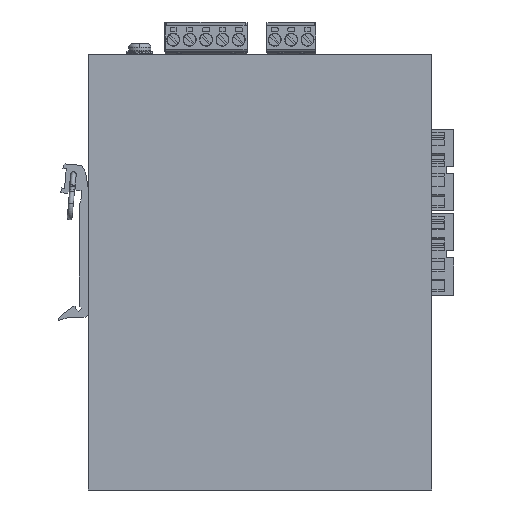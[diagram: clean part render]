
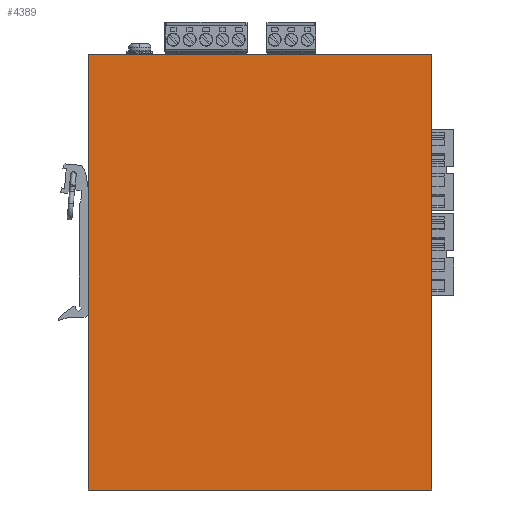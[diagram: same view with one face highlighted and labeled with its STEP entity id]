
A CAD part, left-side view. The second image highlights one B-rep face of the part: STEP entity #4389.
In plain terms, the highlighted planar face has unit normal (-1, 0, 0).
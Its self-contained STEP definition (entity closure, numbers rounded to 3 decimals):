
#432=CARTESIAN_POINT('',(-0.,0.,135.));
#433=VERTEX_POINT('',#432);
#450=CARTESIAN_POINT('',(-0.,106.5,135.));
#451=VERTEX_POINT('',#450);
#458=CARTESIAN_POINT('',(-0.,106.5,135.));
#459=DIRECTION('',(0.,-1.,0.));
#460=VECTOR('',#459,106.5);
#461=LINE('',#458,#460);
#462=EDGE_CURVE('',#451,#433,#461,.T.);
#2905=CARTESIAN_POINT('',(-0.,106.5,0.));
#2906=VERTEX_POINT('',#2905);
#2913=CARTESIAN_POINT('',(-0.,106.5,0.));
#2914=DIRECTION('',(-0.,-0.,1.));
#2915=VECTOR('',#2914,135.);
#2916=LINE('',#2913,#2915);
#2917=EDGE_CURVE('',#2906,#451,#2916,.T.);
#4313=CARTESIAN_POINT('',(0.,0.,0.));
#4314=VERTEX_POINT('',#4313);
#4315=CARTESIAN_POINT('',(0.,0.,0.));
#4316=DIRECTION('',(-0.,-0.,1.));
#4317=VECTOR('',#4316,135.);
#4318=LINE('',#4315,#4317);
#4319=EDGE_CURVE('',#4314,#433,#4318,.T.);
#4373=CARTESIAN_POINT('',(-0.,106.502,0.));
#4374=DIRECTION('',(1.,0.,0.));
#4375=DIRECTION('',(0.,-1.,0.));
#4376=AXIS2_PLACEMENT_3D('',#4373,#4374,#4375);
#4377=PLANE('',#4376);
#4378=ORIENTED_EDGE('',*,*,#4319,.T.);
#4379=ORIENTED_EDGE('',*,*,#462,.F.);
#4380=ORIENTED_EDGE('',*,*,#2917,.F.);
#4381=CARTESIAN_POINT('',(-0.,106.5,0.));
#4382=DIRECTION('',(0.,-1.,0.));
#4383=VECTOR('',#4382,106.5);
#4384=LINE('',#4381,#4383);
#4385=EDGE_CURVE('',#2906,#4314,#4384,.T.);
#4386=ORIENTED_EDGE('',*,*,#4385,.T.);
#4387=EDGE_LOOP('',(#4378,#4379,#4380,#4386));
#4388=FACE_BOUND('',#4387,.T.);
#4389=ADVANCED_FACE('',(#4388),#4377,.F.);
